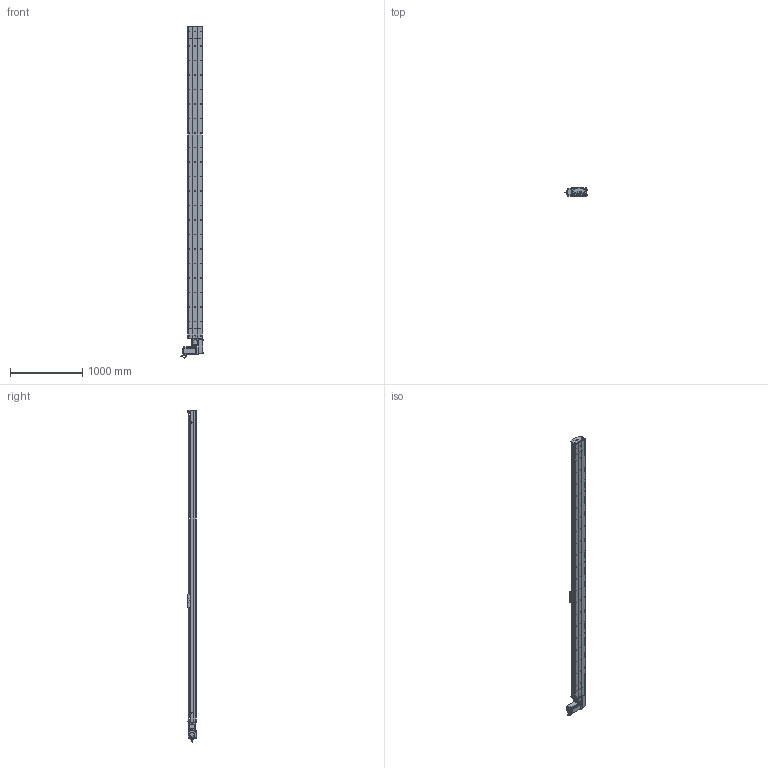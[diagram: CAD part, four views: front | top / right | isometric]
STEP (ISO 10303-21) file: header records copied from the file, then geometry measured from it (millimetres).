
FILE_DESCRIPTION (( 'STEP AP214' ), '1' );
FILE_NAME ('D20 TBH LH S4000.STEP', '2010-07-01T09:16:28', ( 'Conseil Régional Haute-Normandie' ), ( 'Conseil Régional Haute-Normandie' ), 'SwSTEP 2.0', 'SolidWorks 2010', '' );
FILE_SCHEMA (( 'AUTOMOTIVE_DESIGN' ));
Length unit declared in the file: millimetre
Products named in the file (40): chariot D20B_Default; codeur 110BLDC170A-630x; Chariot D20B; rail + couroie  D20 S4000; couvercle D20 S4000_Default; D20 TBH LH S4000; corp D20 S4000_Default; Course B L4000_Default; Moteur motionking 110BLDC170A-640x; vis M5 L70_Default; avant 110BLDC170A-630x; Plaque racord D20LH_Default; Conecteur2_Default; Renvoi LH D20_Default; couvercle head D20_Default; vis M5 L5_Default; plaque de  bout head D20B LH_Default; rail head D20; couroie_Default; poulie head D20_Default; corpl head D20_Default; cache arbre D20_Default; head LH_Default; cache D20_Default; guide D20B; corps 110BLDC170A-630x; poulie tail D20_Default; Couroie tail D20_Default; tete d''axe poulie D20B; tail D20_Default; vis M5 L25_Default; vis M5 L8 90°_Default; corpl tail D20_Default; couvercle tail D20_Default; vis M8 L12_Default; clavette; plaque de  bout tail D20_Default; Conecteur_Default; rail tail D20; vis M5 L12_Default
Assembly tree (71 placements, depth 4):
  D20 TBH LH S4000
    tail D20_Default
      tete d''axe poulie D20B
      poulie tail D20_Default
      corpl tail D20_Default
      vis M5 L12_Default  x4
      rail tail D20
      vis M5 L25_Default  x2
      vis M5 L8 90°_Default  x2
      couvercle tail D20_Default
      plaque de  bout tail D20_Default
      Couroie tail D20_Default
    head LH_Default
      Renvoi LH D20_Default
      vis M5 L12_Default  x10
      vis M5 L70_Default  x4
      Plaque racord D20LH_Default
      vis M5 L5_Default  x4
      Moteur motionking 110BLDC170A-640x
        avant 110BLDC170A-630x
        clavette
        Conecteur_Default
        corps 110BLDC170A-630x
        Conecteur2_Default
        codeur 110BLDC170A-630x
      vis M8 L12_Default  x4
      cache D20_Default  x2
      cache arbre D20_Default
      corpl head D20_Default
      vis M5 L25_Default  x2
      poulie head D20_Default
      couroie_Default
      plaque de  bout head D20B LH_Default
      rail head D20
      couvercle head D20_Default
    chariot D20B_Default
      vis M5 L12_Default  x4
      guide D20B  x2
      Chariot D20B
    Course B L4000_Default
      couvercle D20 S4000_Default
      rail + couroie  D20 S4000
      corp D20 S4000_Default
Bounding box: 304.2 x 115.7 x 4580 mm (x, y, z)
Volume: 33937749.2 mm3; surface area: 8481166 mm2
Topology: 95 solids, 95 shells, 2944 faces, 7662 edges, 4959 vertices
Faces by surface type: plane 1655, cylinder 965, bspline 136, cone 99, torus 89
Entity records: 97181 total; most frequent: CARTESIAN_POINT 32045, ORIENTED_EDGE 11980, DIRECTION 11189, EDGE_CURVE 5990, VERTEX_POINT 3945, AXIS2_PLACEMENT_3D 3737, LINE 3715, VECTOR 3715
